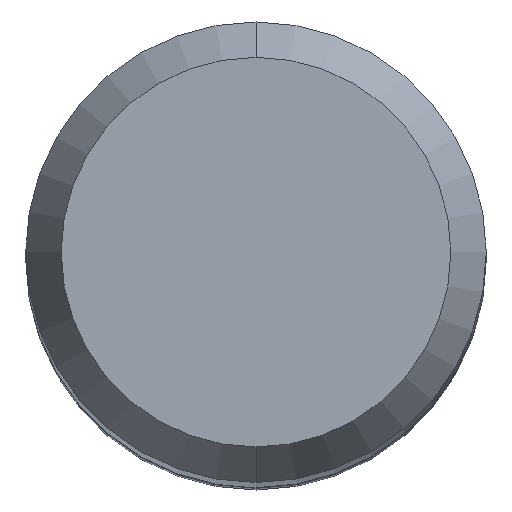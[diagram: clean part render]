
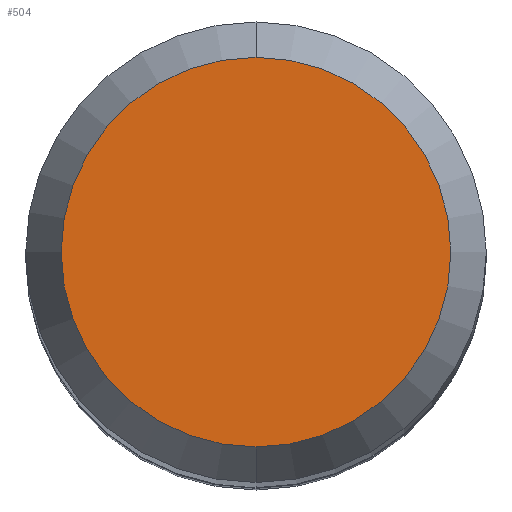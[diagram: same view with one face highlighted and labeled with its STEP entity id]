
A CAD part, top view. The second image highlights one B-rep face of the part: STEP entity #504.
In plain terms, the highlighted planar face has unit normal (0, 0, 1).
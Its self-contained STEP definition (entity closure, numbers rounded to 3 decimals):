
#294=EDGE_CURVE('',#608,#366,#716,.T.);
#366=VERTEX_POINT('',#793);
#484=EDGE_CURVE('',#366,#608,#928,.T.);
#504=ADVANCED_FACE('',(#950),#951,.T.);
#608=VERTEX_POINT('',#1066);
#716=CIRCLE('',#1225,2.538);
#793=CARTESIAN_POINT('',(0.0,2.538,0.0));
#928=CIRCLE('',#1578,2.538);
#950=FACE_OUTER_BOUND('',#1618,.T.);
#951=PLANE('',#1619);
#1066=CARTESIAN_POINT('',(0.,-2.538,0.0));
#1225=AXIS2_PLACEMENT_3D('',#1980,#1981,#1982);
#1578=AXIS2_PLACEMENT_3D('',#2233,#2234,#2235);
#1618=EDGE_LOOP('',(#2261,#2262));
#1619=AXIS2_PLACEMENT_3D('',#2263,#2264,#2265);
#1980=CARTESIAN_POINT('',(0.0,0.0,0.0));
#1981=DIRECTION('',(0.0,0.0,-1.0));
#1982=DIRECTION('',(0.0,1.0,0.0));
#2233=CARTESIAN_POINT('',(0.0,0.0,0.0));
#2234=DIRECTION('',(0.0,0.0,-1.0));
#2235=DIRECTION('',(0.0,1.0,0.0));
#2261=ORIENTED_EDGE('',*,*,#484,.F.);
#2262=ORIENTED_EDGE('',*,*,#294,.F.);
#2263=CARTESIAN_POINT('',(0.0,1.269,0.0));
#2264=DIRECTION('',(-0.0,0.0,1.0));
#2265=DIRECTION('',(0.0,-1.0,0.0));
